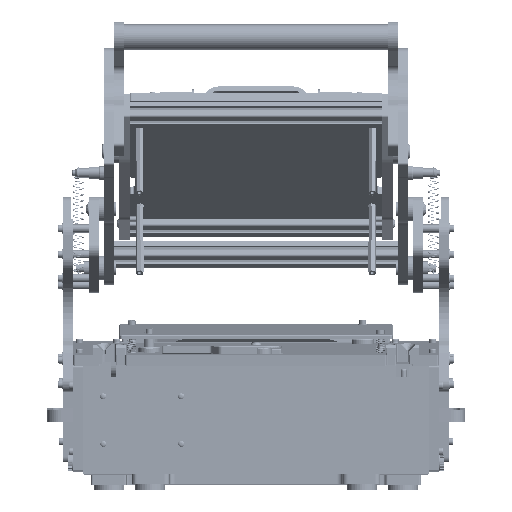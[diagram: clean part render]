
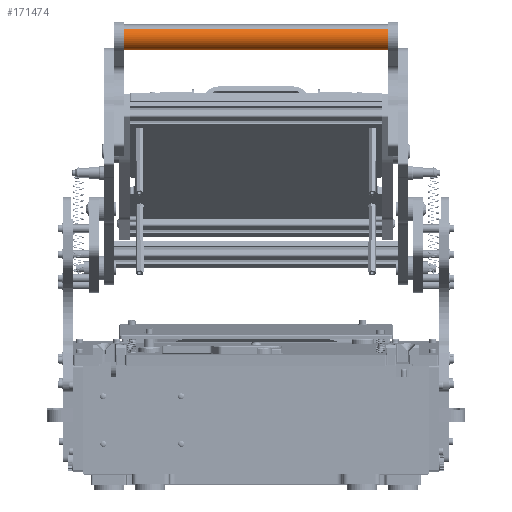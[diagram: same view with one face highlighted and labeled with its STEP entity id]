
A CAD part, top view. The second image highlights one B-rep face of the part: STEP entity #171474.
In plain terms, the highlighted cylindrical face has radius 12.5 mm (diameter 25 mm), a partial arc.
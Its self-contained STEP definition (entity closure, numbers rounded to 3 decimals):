
#4063 = AXIS2_PLACEMENT_3D ( 'NONE', #144283, #130135, #130817 ) ;
#9286 = DIRECTION ( 'NONE',  ( 0., 0., 1. ) ) ;
#15558 = CARTESIAN_POINT ( 'NONE',  ( 12.5, 0., -135. ) ) ;
#19878 = CIRCLE ( 'NONE', #23861, 12.5 ) ;
#20970 = VERTEX_POINT ( 'NONE', #120509 ) ;
#23241 = LINE ( 'NONE', #15558, #194507 ) ;
#23861 = AXIS2_PLACEMENT_3D ( 'NONE', #190565, #77969, #94223 ) ;
#38886 = CARTESIAN_POINT ( 'NONE',  ( -12.5, 0., -135. ) ) ;
#52846 = EDGE_CURVE ( 'NONE', #115074, #20970, #103473, .T. ) ;
#53352 = CARTESIAN_POINT ( 'NONE',  ( -12.5, 0., -135. ) ) ;
#54440 = VERTEX_POINT ( 'NONE', #38886 ) ;
#60512 = EDGE_CURVE ( 'NONE', #54440, #20970, #64494, .T. ) ;
#64494 = LINE ( 'NONE', #53352, #79675 ) ;
#74847 = EDGE_LOOP ( 'NONE', ( #189613, #127695, #166015, #167263 ) ) ;
#77969 = DIRECTION ( 'NONE',  ( 0., 0., 1. ) ) ;
#79675 = VECTOR ( 'NONE', #87824, 1000. ) ;
#87824 = DIRECTION ( 'NONE',  ( 0., 0., 1. ) ) ;
#90196 = CARTESIAN_POINT ( 'NONE',  ( 0., 0., -135. ) ) ;
#94223 = DIRECTION ( 'NONE',  ( 1., 0., 0. ) ) ;
#103473 = CIRCLE ( 'NONE', #4063, 12.5 ) ;
#106883 = EDGE_CURVE ( 'NONE', #188933, #54440, #19878, .T. ) ;
#115074 = VERTEX_POINT ( 'NONE', #144592 ) ;
#117382 = AXIS2_PLACEMENT_3D ( 'NONE', #90196, #9286, #202725 ) ;
#120509 = CARTESIAN_POINT ( 'NONE',  ( -12.5, 0., 135. ) ) ;
#123240 = CYLINDRICAL_SURFACE ( 'NONE', #117382, 12.5 ) ;
#127695 = ORIENTED_EDGE ( 'NONE', *, *, #60512, .T. ) ;
#128287 = FACE_OUTER_BOUND ( 'NONE', #74847, .T. ) ;
#130135 = DIRECTION ( 'NONE',  ( 0., 0., 1. ) ) ;
#130817 = DIRECTION ( 'NONE',  ( 1., 0., 0. ) ) ;
#133954 = CARTESIAN_POINT ( 'NONE',  ( 12.5, 0., -135. ) ) ;
#144283 = CARTESIAN_POINT ( 'NONE',  ( 0., 0., 135. ) ) ;
#144592 = CARTESIAN_POINT ( 'NONE',  ( 12.5, 0., 135. ) ) ;
#166015 = ORIENTED_EDGE ( 'NONE', *, *, #52846, .F. ) ;
#167263 = ORIENTED_EDGE ( 'NONE', *, *, #198921, .F. ) ;
#171474 = ADVANCED_FACE ( 'NONE', ( #128287 ), #123240, .T. ) ;
#175987 = DIRECTION ( 'NONE',  ( 0., 0., 1. ) ) ;
#188933 = VERTEX_POINT ( 'NONE', #133954 ) ;
#189613 = ORIENTED_EDGE ( 'NONE', *, *, #106883, .T. ) ;
#190565 = CARTESIAN_POINT ( 'NONE',  ( 0., 0., -135. ) ) ;
#194507 = VECTOR ( 'NONE', #175987, 1000. ) ;
#198921 = EDGE_CURVE ( 'NONE', #188933, #115074, #23241, .T. ) ;
#202725 = DIRECTION ( 'NONE',  ( 1., 0., 0. ) ) ;
